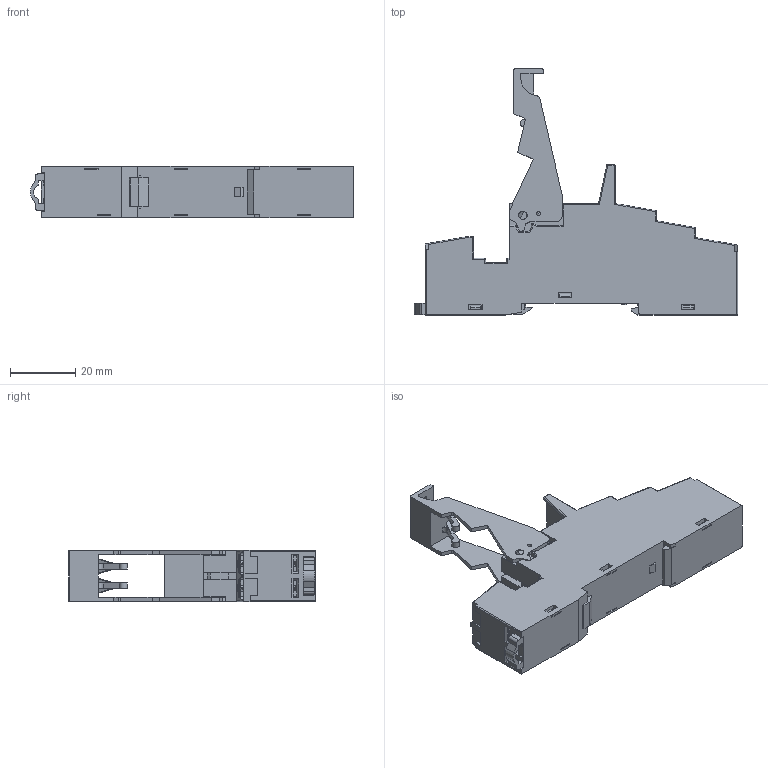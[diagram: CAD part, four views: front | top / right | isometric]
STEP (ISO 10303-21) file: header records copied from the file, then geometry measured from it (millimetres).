
FILE_DESCRIPTION(('STEP AP214'),'2;1');
FILE_NAME('95P3_with_095913.stp','2015-06-22T11:45:52',(''),(''),'2007.1.106','THINKDESIGN','');
FILE_SCHEMA(('AUTOMOTIVE_DESIGN'));
Length unit declared in the file: centimetre
Products named in the file (1): top
Bounding box: 98.9 x 75.26 x 15.8 mm (x, y, z)
Volume: 36318.2 mm3; surface area: 21745.4 mm2
Topology: 4 solids, 4 shells, 1950 faces, 5283 edges, 3361 vertices
Faces by surface type: plane 1440, cylinder 378, bspline 132
Full cylindrical faces by diameter (mm): 1.2 x4, 1.3 x2, 2.1 x5, 2.5 x2, 2.6 x2
Entity records: 63034 total; most frequent: CARTESIAN_POINT 14188, ORIENTED_EDGE 10562, DIRECTION 9544, EDGE_CURVE 5281, VECTOR 4332, LINE 4332, VERTEX_POINT 3361, AXIS2_PLACEMENT_3D 2606
